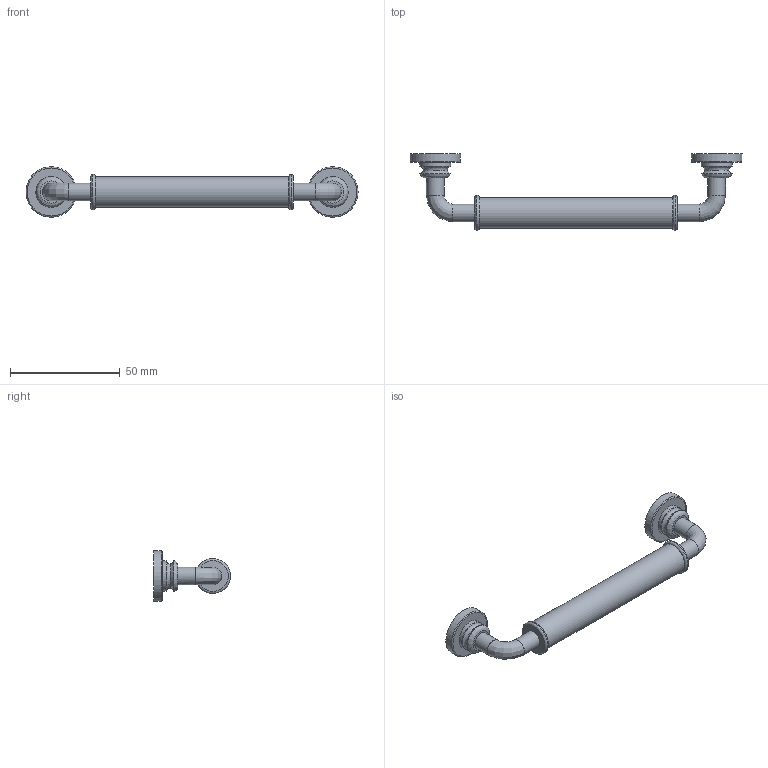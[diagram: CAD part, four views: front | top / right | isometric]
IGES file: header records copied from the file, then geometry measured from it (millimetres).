
Start section: Data from Parasolid IGES Translator 15.0.47, Copyright(c) 2006 Siemens P LM Software. All Rights Reserved.
Global section: file name: 9132268.igs; native system:  By UGS Corp.; preprocessor: XPlus GENERIC/IGES 3.0; author: Noname; organization: Noname; date: 20140122.102034; units: millimetre
Bounding box: 151 x 35 x 23 mm (x, y, z)
Surface area: 8898.1 mm2 (no closed solid volume)
Topology: 0 solids, 0 shells, 50 faces, 228 edges, 188 vertices
Faces by surface type: revolution 42, extrusion 8
